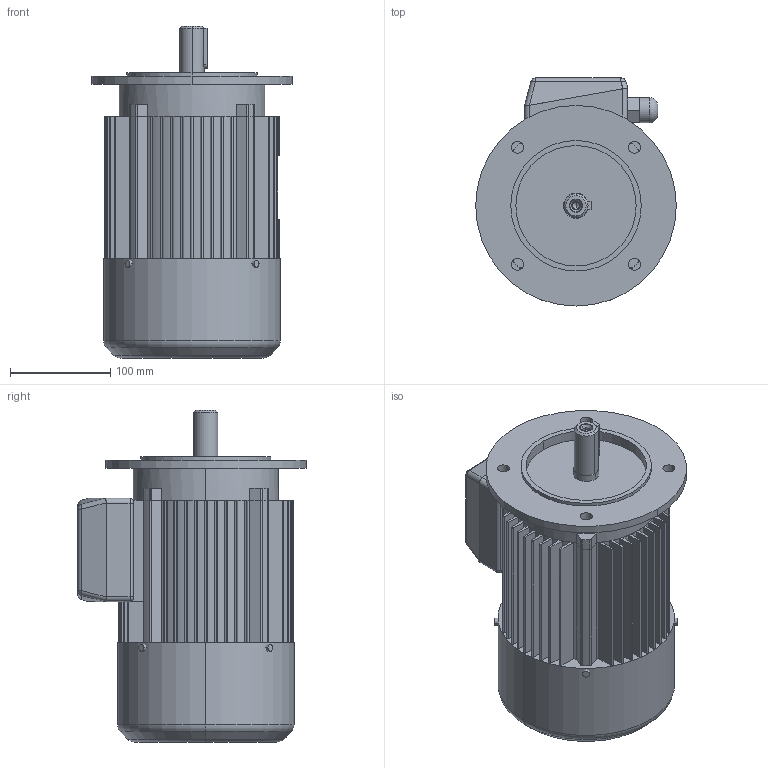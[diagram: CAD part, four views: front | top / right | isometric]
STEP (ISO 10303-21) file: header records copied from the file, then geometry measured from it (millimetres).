
FILE_DESCRIPTION (( 'STEP AP203' ), '1' );
FILE_NAME ('SKh 90L-B5.STEP', '2010-02-09T12:25:20', ( 'INDUKTA' ), ( 'CANTONI MOTOR' ), 'SwSTEP 2.0', 'SolidWorks 2003064', '' );
FILE_SCHEMA (( 'CONFIG_CONTROL_DESIGN' ));
Length unit declared in the file: millimetre
Products named in the file (1): SKh 90L-B5
Bounding box: 200 x 227.5 x 331 mm (x, y, z)
Volume: 6320443 mm3; surface area: 484219.9 mm2
Topology: 11 solids, 11 shells, 474 faces, 1271 edges, 827 vertices
Faces by surface type: plane 231, cylinder 175, bspline 42, cone 12, torus 10, sphere 4
Entity records: 17761 total; most frequent: CARTESIAN_POINT 5814, ORIENTED_EDGE 2530, DIRECTION 2425, EDGE_CURVE 1265, VERTEX_POINT 827, AXIS2_PLACEMENT_3D 822, LINE 781, VECTOR 781
